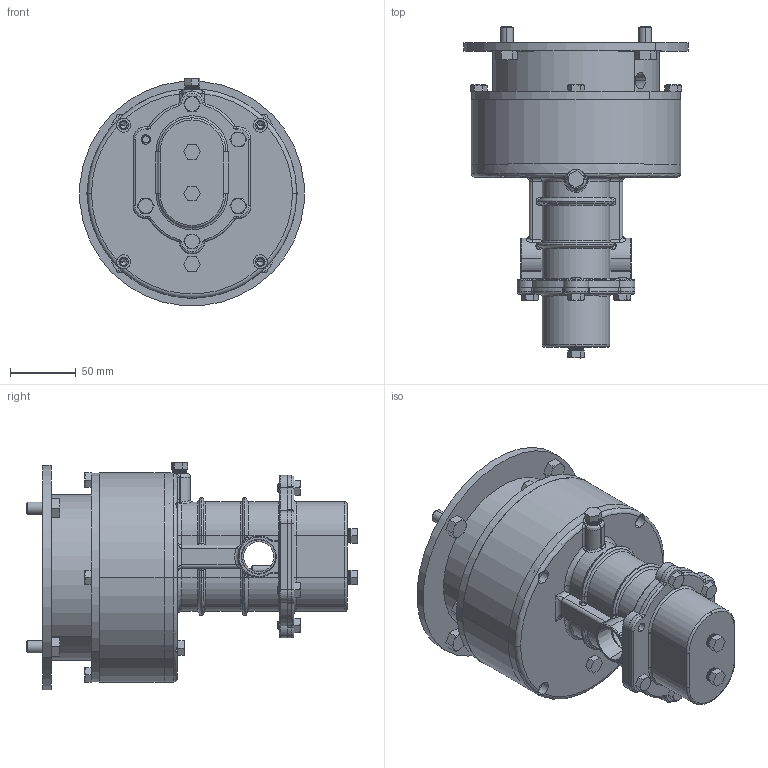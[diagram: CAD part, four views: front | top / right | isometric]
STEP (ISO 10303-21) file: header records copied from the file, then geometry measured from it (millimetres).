
FILE_DESCRIPTION (( 'STEP AP214' ), '1' );
FILE_NAME ('E25M FNPT 56-143-5TC NO MTR.STEP', '2025-07-11T14:04:01', ( '' ), ( '' ), 'SwSTEP 2.0', 'SolidWorks 2024', '' );
FILE_SCHEMA (( 'AUTOMOTIVE_DESIGN' ));
Length unit declared in the file: inch
Products named in the file (10): socket head cap screw_ai_HX-SHCS 0.25-28x0.625x0.625-N; hex bolt_ai_HBOLT 0.2500-28x0.5x0.5-N; E25M FNPT 56-143-5TC NO MTR; NG020017_MACHINE; hex bolt_ai_HBOLT 0.3750-16x0.75x0.75-N; W772565_4452K541; hex bolt_ai_HBOLT 0.2500-28x0.75x0.75-N; NG040047_MACHINED; 49627; 49610
Assembly tree (22 placements, depth 2):
  E25M FNPT 56-143-5TC NO MTR
    NG040047_MACHINED
    NG020017_MACHINE
    49610
    49627
    hex bolt_ai_HBOLT 0.2500-28x0.75x0.75-N  x4
    socket head cap screw_ai_HX-SHCS 0.25-28x0.625x0.625-N
    hex bolt_ai_HBOLT 0.3750-16x0.75x0.75-N  x4
    hex bolt_ai_HBOLT 0.2500-28x0.5x0.5-N  x5
    W772565_4452K541  x4
Bounding box: 170.8 x 252.92 x 173.08 mm (x, y, z)
Volume: 857186.3 mm3; surface area: 300970.2 mm2
Topology: 22 solids, 22 shells, 1270 faces, 3432 edges, 2207 vertices
Faces by surface type: cylinder 403, plane 291, cone 274, torus 215, bspline 57, sphere 30
Entity records: 35948 total; most frequent: CARTESIAN_POINT 12268, DIRECTION 5206, ORIENTED_EDGE 4802, EDGE_CURVE 2401, AXIS2_PLACEMENT_3D 2232, VERTEX_POINT 1484, CIRCLE 1286, EDGE_LOOP 1075
